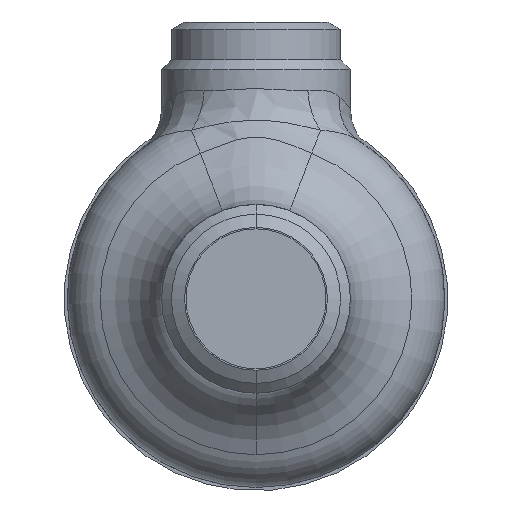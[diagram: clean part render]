
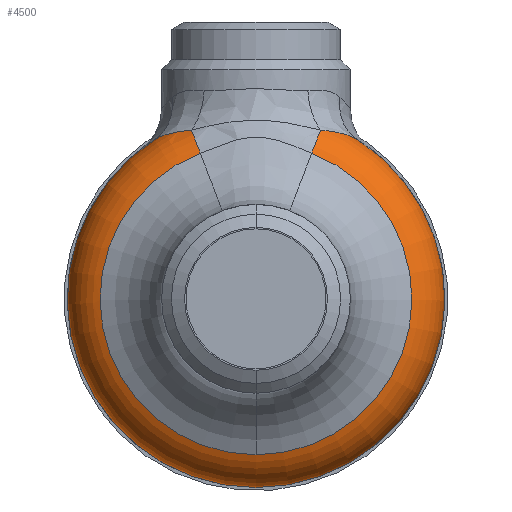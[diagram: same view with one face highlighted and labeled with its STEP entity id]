
A CAD part, front view. The second image highlights one B-rep face of the part: STEP entity #4500.
In plain terms, the highlighted toroidal (fillet/blend) face has major radius 22 mm and minor radius 8 mm.
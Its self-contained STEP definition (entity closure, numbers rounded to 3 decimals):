
#449 = CIRCLE ( 'NONE', #450, 30. ) ;
#450 = AXIS2_PLACEMENT_3D ( 'NONE', #451, #452, #453 ) ;
#451 = CARTESIAN_POINT ( 'NONE',  ( 0., -47., 0. ) ) ;
#452 = DIRECTION ( 'NONE',  ( 0., 1., 0. ) ) ;
#453 = DIRECTION ( 'NONE',  ( 0., 0., 1. ) ) ;
#476 = VERTEX_POINT ( 'NONE', #6455 ) ;
#517 = CARTESIAN_POINT ( 'NONE',  ( 10.252, -51.355, 26.818 ) ) ;
#655 = CIRCLE ( 'NONE', #656, 8. ) ;
#656 = AXIS2_PLACEMENT_3D ( 'NONE', #657, #658, #659 ) ;
#657 = CARTESIAN_POINT ( 'NONE',  ( 7.856, -47., 20.55 ) ) ;
#658 = DIRECTION ( 'NONE',  ( 0.934, 0., -0.357 ) ) ;
#659 = DIRECTION ( 'NONE',  ( 0.357, 0., 0.934 ) ) ;
#1498 = ORIENTED_EDGE ( 'NONE', *, *, #5942, .T. ) ;
#1999 = VERTEX_POINT ( 'NONE', #9143 ) ;
#3788 = ORIENTED_EDGE ( 'NONE', *, *, #6036, .T. ) ;
#4275 = EDGE_LOOP ( 'NONE', ( #3788, #11397, #10606, #10123, #5918, #11248, #1498, #5893 ) ) ;
#4500 = ADVANCED_FACE ( 'NONE', ( #6184 ), #6185, .T. ) ;
#5893 = ORIENTED_EDGE ( 'NONE', *, *, #9339, .T. ) ;
#5918 = ORIENTED_EDGE ( 'NONE', *, *, #8043, .T. ) ;
#5923 = VERTEX_POINT ( 'NONE', #12218 ) ;
#5942 = EDGE_CURVE ( 'NONE', #5923, #476, #12422, .T. ) ;
#6036 = EDGE_CURVE ( 'NONE', #9148, #6561, #6396, .T. ) ;
#6121 = VERTEX_POINT ( 'NONE', #7199 ) ;
#6184 = FACE_OUTER_BOUND ( 'NONE', #4275, .T. ) ;
#6185 = TOROIDAL_SURFACE ( 'NONE', #6186, 22., 8. ) ;
#6186 = AXIS2_PLACEMENT_3D ( 'NONE', #6187, #6188, #6189 ) ;
#6187 = CARTESIAN_POINT ( 'NONE',  ( 0., -47., 0. ) ) ;
#6188 = DIRECTION ( 'NONE',  ( 0., 1., 0. ) ) ;
#6189 = DIRECTION ( 'NONE',  ( 0., 0., 1. ) ) ;
#6194 = CARTESIAN_POINT ( 'NONE',  ( -8.849, -54.5, 23.149 ) ) ;
#6200 = VERTEX_POINT ( 'NONE', #8323 ) ;
#6391 = CIRCLE ( 'NONE', #6392, 24.783 ) ;
#6392 = AXIS2_PLACEMENT_3D ( 'NONE', #6393, #6394, #6395 ) ;
#6393 = CARTESIAN_POINT ( 'NONE',  ( 0., -54.5, 0. ) ) ;
#6394 = DIRECTION ( 'NONE',  ( 0., 1., 0. ) ) ;
#6395 = DIRECTION ( 'NONE',  ( 0., 0., 1. ) ) ;
#6396 = CIRCLE ( 'NONE', #6397, 8. ) ;
#6397 = AXIS2_PLACEMENT_3D ( 'NONE', #6398, #6399, #6400 ) ;
#6398 = CARTESIAN_POINT ( 'NONE',  ( -7.856, -47., 20.55 ) ) ;
#6399 = DIRECTION ( 'NONE',  ( -0.934, 0., -0.357 ) ) ;
#6400 = DIRECTION ( 'NONE',  ( -0.357, 0., 0.934 ) ) ;
#6455 = CARTESIAN_POINT ( 'NONE',  ( 0., -54.5, -24.783 ) ) ;
#6561 = VERTEX_POINT ( 'NONE', #9087 ) ;
#7199 = CARTESIAN_POINT ( 'NONE',  ( 0., -47., -30. ) ) ;
#8043 = EDGE_CURVE ( 'NONE', #6200, #8369, #12403, .T. ) ;
#8323 = CARTESIAN_POINT ( 'NONE',  ( 16.155, -47., 25.279 ) ) ;
#8369 = VERTEX_POINT ( 'NONE', #517 ) ;
#8415 = CIRCLE ( 'NONE', #8416, 30. ) ;
#8416 = AXIS2_PLACEMENT_3D ( 'NONE', #8417, #8418, #8419 ) ;
#8417 = CARTESIAN_POINT ( 'NONE',  ( 0., -47., 0. ) ) ;
#8418 = DIRECTION ( 'NONE',  ( 0., 1., 0. ) ) ;
#8419 = DIRECTION ( 'NONE',  ( 0., 0., 1. ) ) ;
#8579 = EDGE_CURVE ( 'NONE', #8369, #5923, #655, .T. ) ;
#9087 = CARTESIAN_POINT ( 'NONE',  ( -10.252, -51.355, 26.818 ) ) ;
#9143 = CARTESIAN_POINT ( 'NONE',  ( -16.155, -47., 25.279 ) ) ;
#9148 = VERTEX_POINT ( 'NONE', #6194 ) ;
#9169 = B_SPLINE_CURVE_WITH_KNOTS ( 'NONE', 3,
 ( #9170, #9171, #9172, #9173, #9174, #9175, #9176, #9177, #9178, #9179 ),
 .UNSPECIFIED., .F., .F.,
 ( 4, 2, 2, 2, 4 ),
 ( 0., 0.004, 0.005, 0.006, 0.008 ),
 .UNSPECIFIED. ) ;
#9170 = CARTESIAN_POINT ( 'NONE',  ( -10.252, -51.355, 26.818 ) ) ;
#9171 = CARTESIAN_POINT ( 'NONE',  ( -11.417, -50.852, 26.722 ) ) ;
#9172 = CARTESIAN_POINT ( 'NONE',  ( -12.51, -50.241, 26.575 ) ) ;
#9173 = CARTESIAN_POINT ( 'NONE',  ( -13.764, -49.322, 26.272 ) ) ;
#9174 = CARTESIAN_POINT ( 'NONE',  ( -14.01, -49.13, 26.205 ) ) ;
#9175 = CARTESIAN_POINT ( 'NONE',  ( -14.485, -48.733, 26.058 ) ) ;
#9176 = CARTESIAN_POINT ( 'NONE',  ( -14.714, -48.529, 25.979 ) ) ;
#9177 = CARTESIAN_POINT ( 'NONE',  ( -15.376, -47.901, 25.718 ) ) ;
#9178 = CARTESIAN_POINT ( 'NONE',  ( -15.783, -47.46, 25.517 ) ) ;
#9179 = CARTESIAN_POINT ( 'NONE',  ( -16.155, -47., 25.279 ) ) ;
#9339 = EDGE_CURVE ( 'NONE', #476, #9148, #6391, .T. ) ;
#10123 = ORIENTED_EDGE ( 'NONE', *, *, #10763, .F. ) ;
#10606 = ORIENTED_EDGE ( 'NONE', *, *, #12713, .F. ) ;
#10763 = EDGE_CURVE ( 'NONE', #6200, #6121, #8415, .T. ) ;
#11093 = EDGE_CURVE ( 'NONE', #6561, #1999, #9169, .T. ) ;
#11248 = ORIENTED_EDGE ( 'NONE', *, *, #8579, .T. ) ;
#11397 = ORIENTED_EDGE ( 'NONE', *, *, #11093, .T. ) ;
#12218 = CARTESIAN_POINT ( 'NONE',  ( 8.849, -54.5, 23.149 ) ) ;
#12403 = B_SPLINE_CURVE_WITH_KNOTS ( 'NONE', 3,
 ( #12404, #12405, #12406, #12407, #12408, #12409 ),
 .UNSPECIFIED., .F., .F.,
 ( 4, 2, 4 ),
 ( 0., 0.004, 0.008 ),
 .UNSPECIFIED. ) ;
#12404 = CARTESIAN_POINT ( 'NONE',  ( 16.155, -47., 25.279 ) ) ;
#12405 = CARTESIAN_POINT ( 'NONE',  ( 15.41, -47.92, 25.755 ) ) ;
#12406 = CARTESIAN_POINT ( 'NONE',  ( 14.53, -48.759, 26.086 ) ) ;
#12407 = CARTESIAN_POINT ( 'NONE',  ( 12.515, -50.238, 26.574 ) ) ;
#12408 = CARTESIAN_POINT ( 'NONE',  ( 11.417, -50.852, 26.722 ) ) ;
#12409 = CARTESIAN_POINT ( 'NONE',  ( 10.252, -51.355, 26.818 ) ) ;
#12422 = CIRCLE ( 'NONE', #12423, 24.783 ) ;
#12423 = AXIS2_PLACEMENT_3D ( 'NONE', #12424, #12425, #12426 ) ;
#12424 = CARTESIAN_POINT ( 'NONE',  ( 0., -54.5, 0. ) ) ;
#12425 = DIRECTION ( 'NONE',  ( 0., 1., 0. ) ) ;
#12426 = DIRECTION ( 'NONE',  ( 0., 0., 1. ) ) ;
#12713 = EDGE_CURVE ( 'NONE', #6121, #1999, #449, .T. ) ;
